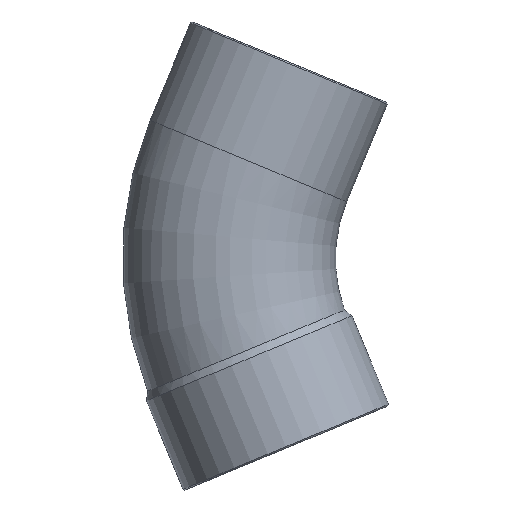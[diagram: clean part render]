
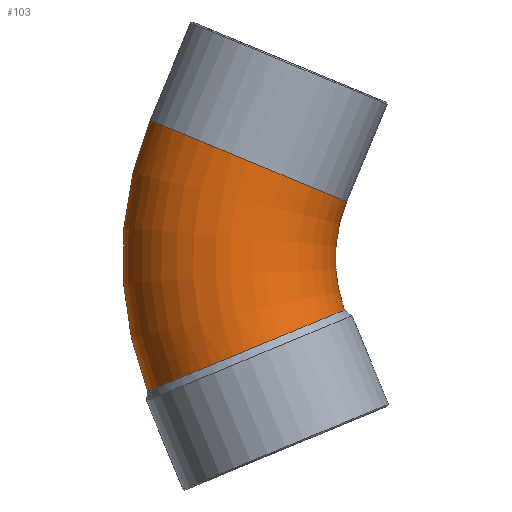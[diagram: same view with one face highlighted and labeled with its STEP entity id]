
A CAD part, front view. The second image highlights one B-rep face of the part: STEP entity #103.
In plain terms, the highlighted toroidal (fillet/blend) face has major radius 96 mm and minor radius 40 mm.
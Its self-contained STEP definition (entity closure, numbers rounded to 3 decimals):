
#44=CARTESIAN_POINT('',(4.435,0.,0.));
#45=DIRECTION('',(0.,1.0,0.));
#46=DIRECTION('',(-0.383,0.,0.924));
#47=AXIS2_PLACEMENT_3D('',#44,#45,#46);
#48=TOROIDAL_SURFACE('',#47,96.0,40.0);
#49=CARTESIAN_POINT('',(-122.112,0.,-49.818));
#50=VERTEX_POINT('',#49);
#51=CARTESIAN_POINT('',(-121.213,0.,52.045));
#52=VERTEX_POINT('',#51);
#53=CARTESIAN_POINT('',(4.435,0.,0.));
#54=DIRECTION('',(0.0,1.0,0.0));
#55=DIRECTION('',(0.0,0.0,1.0));
#56=AXIS2_PLACEMENT_3D('',#53,#54,#55);
#57=CIRCLE('',#56,136.0);
#58=EDGE_CURVE('',#50,#52,#57,.T.);
#59=ORIENTED_EDGE('',*,*,#58,.F.);
#60=CARTESIAN_POINT('',(-48.133,0.,-19.302));
#61=VERTEX_POINT('',#60);
#62=CARTESIAN_POINT('',(-122.112,0.,-49.818));
#63=CARTESIAN_POINT('',(-122.112,-2.949,-49.818));
#64=CARTESIAN_POINT('',(-121.811,-5.888,-49.694));
#65=CARTESIAN_POINT('',(-120.616,-11.643,-49.2));
#66=CARTESIAN_POINT('',(-119.727,-14.439,-48.832));
#67=CARTESIAN_POINT('',(-116.502,-21.813,-47.499));
#68=CARTESIAN_POINT('',(-113.613,-26.041,-46.305));
#69=CARTESIAN_POINT('',(-106.499,-33.062,-43.365));
#70=CARTESIAN_POINT('',(-102.342,-35.788,-41.647));
#71=CARTESIAN_POINT('',(-93.293,-39.361,-37.91));
#72=CARTESIAN_POINT('',(-88.489,-40.174,-35.926));
#73=CARTESIAN_POINT('',(-78.861,-39.763,-31.953));
#74=CARTESIAN_POINT('',(-74.13,-38.542,-30.001));
#75=CARTESIAN_POINT('',(-65.366,-34.207,-26.389));
#76=CARTESIAN_POINT('',(-61.417,-31.136,-24.763));
#77=CARTESIAN_POINT('',(-54.832,-23.531,-22.054));
#78=CARTESIAN_POINT('',(-52.258,-19.071,-20.996));
#79=CARTESIAN_POINT('',(-48.95,-9.664,-19.638));
#80=CARTESIAN_POINT('',(-48.133,-4.851,-19.302));
#81=CARTESIAN_POINT('',(-48.133,0.,-19.302));
#82=B_SPLINE_CURVE_WITH_KNOTS('',3,(#62,#63,#64,#65,#66,#67,#68,#69,#70,#71,#72,#73,#74,#75,#76,#77,#78,#79,#80,#81),.UNSPECIFIED.,.F.,.U.,(4,2,2,2,2,2,2,2,2,4),(-25.212,-24.327,-23.443,-21.88,-20.317,-18.754,-17.19,-15.627,-14.065,-12.608),.UNSPECIFIED.);
#83=EDGE_CURVE('',#50,#61,#82,.T.);
#84=ORIENTED_EDGE('',*,*,#83,.T.);
#85=CARTESIAN_POINT('',(-47.302,0.,21.43));
#86=VERTEX_POINT('',#85);
#87=CARTESIAN_POINT('',(4.435,0.,0.));
#88=DIRECTION('',(0.0,-1.0,0.0));
#89=DIRECTION('',(0.0,0.0,1.0));
#90=AXIS2_PLACEMENT_3D('',#87,#88,#89);
#91=CIRCLE('',#90,56.0);
#92=EDGE_CURVE('',#86,#61,#91,.T.);
#93=ORIENTED_EDGE('',*,*,#92,.F.);
#94=CARTESIAN_POINT('',(-84.257,0.,36.738));
#95=DIRECTION('',(-0.383,0.,-0.924));
#96=DIRECTION('',(-0.924,0.,0.383));
#97=AXIS2_PLACEMENT_3D('',#94,#95,#96);
#98=CIRCLE('',#97,40.0);
#99=EDGE_CURVE('',#86,#52,#98,.T.);
#100=ORIENTED_EDGE('',*,*,#99,.T.);
#101=EDGE_LOOP('',(#59,#84,#93,#100));
#102=FACE_OUTER_BOUND('',#101,.T.);
#103=ADVANCED_FACE('',(#102),#48,.T.);
